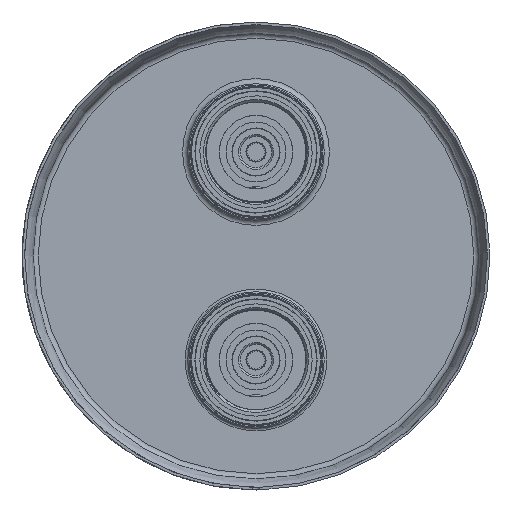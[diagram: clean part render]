
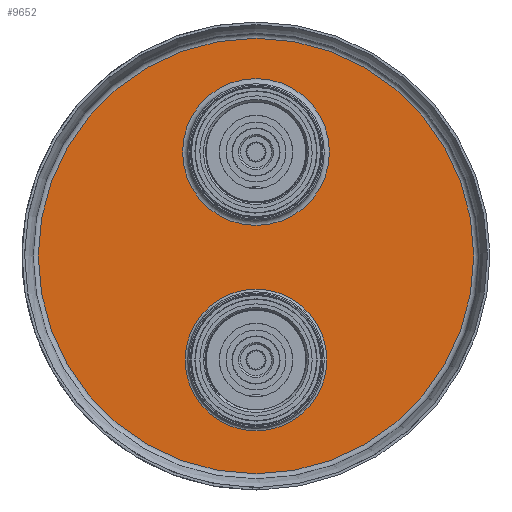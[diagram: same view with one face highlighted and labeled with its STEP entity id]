
A CAD part, left-side view. The second image highlights one B-rep face of the part: STEP entity #9652.
In plain terms, the highlighted planar face has unit normal (-1, 0, 0) as drawn and (0, 0, -1) by its records, which use the part's own axes.
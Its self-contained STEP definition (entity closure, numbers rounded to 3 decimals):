
#668=PLANE('',#10490);
#803=FACE_BOUND('',#3289,.T.);
#804=FACE_BOUND('',#3290,.T.);
#2583=FACE_OUTER_BOUND('',#3288,.T.);
#3288=EDGE_LOOP('',(#8883));
#3289=EDGE_LOOP('',(#8884));
#3290=EDGE_LOOP('',(#8885));
#3730=CIRCLE('',#10489,27.25);
#3731=CIRCLE('',#10491,83.738);
#3732=CIRCLE('',#10492,28.25);
#4956=VERTEX_POINT('',#21662);
#4957=VERTEX_POINT('',#21665);
#4958=VERTEX_POINT('',#21667);
#6293=EDGE_CURVE('',#4956,#4956,#3730,.T.);
#6294=EDGE_CURVE('',#4957,#4957,#3731,.T.);
#6295=EDGE_CURVE('',#4958,#4958,#3732,.T.);
#8883=ORIENTED_EDGE('',*,*,#6294,.T.);
#8884=ORIENTED_EDGE('',*,*,#6295,.F.);
#8885=ORIENTED_EDGE('',*,*,#6293,.F.);
#9652=ADVANCED_FACE('',(#2583,#803,#804),#668,.T.);
#10489=AXIS2_PLACEMENT_3D('',#21663,#12656,#12657);
#10490=AXIS2_PLACEMENT_3D('',#21664,#12658,#12659);
#10491=AXIS2_PLACEMENT_3D('',#21666,#12660,#12661);
#10492=AXIS2_PLACEMENT_3D('',#21668,#12662,#12663);
#12656=DIRECTION('center_axis',(0.,0.,-1.));
#12657=DIRECTION('ref_axis',(-1.,0.,0.));
#12658=DIRECTION('center_axis',(0.,0.,-1.));
#12659=DIRECTION('ref_axis',(-1.,0.,0.));
#12660=DIRECTION('center_axis',(0.,0.,-1.));
#12661=DIRECTION('ref_axis',(0.,-1.,0.));
#12662=DIRECTION('center_axis',(0.,0.,-1.));
#12663=DIRECTION('ref_axis',(-1.,0.,0.));
#21662=CARTESIAN_POINT('',(27.25,-40.,11.));
#21663=CARTESIAN_POINT('Origin',(0.,-40.,11.));
#21664=CARTESIAN_POINT('Origin',(0.,0.,11.));
#21665=CARTESIAN_POINT('',(0.,83.738,11.));
#21666=CARTESIAN_POINT('Origin',(0.,0.,11.));
#21667=CARTESIAN_POINT('',(28.25,40.,11.));
#21668=CARTESIAN_POINT('Origin',(0.,40.,11.));
